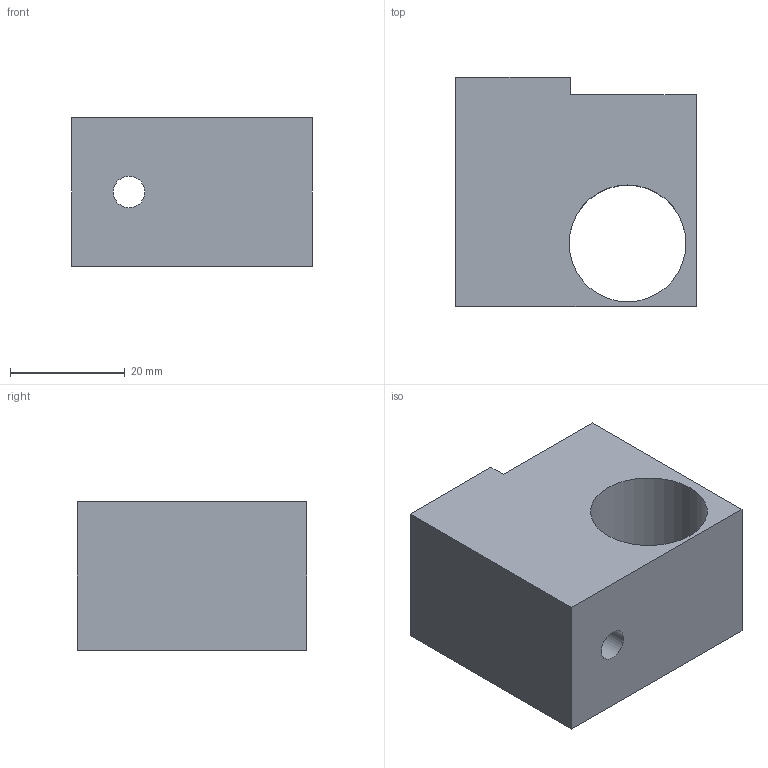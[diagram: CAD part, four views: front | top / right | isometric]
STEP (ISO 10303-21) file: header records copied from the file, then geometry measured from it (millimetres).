
FILE_DESCRIPTION(('Open CASCADE Model'),'2;1');
FILE_NAME('Open CASCADE Shape Model','2026-10-06T19:56:08',('Author'),( 'Open CASCADE'),'Open CASCADE STEP processor 7.9','Open CASCADE 7.9' ,'Unknown');
FILE_SCHEMA(('AUTOMOTIVE_DESIGN { 1 0 10303 214 1 1 1 1 }'));
Length unit declared in the file: millimetre
Products named in the file (1): Open CASCADE STEP translator 7.9 8
Bounding box: 42 x 40 x 26 mm (x, y, z)
Volume: 32515.5 mm3; surface area: 9148.2 mm2
Topology: 1 solids, 1 shells, 10 faces, 24 edges, 16 vertices
Faces by surface type: plane 8, cylinder 2
Full cylindrical faces by diameter (mm): 5.5 x1, 20.4 x1
Entity records: 628 total; most frequent: CARTESIAN_POINT 111, DIRECTION 96, LINE 64, VECTOR 64, ORIENTED_EDGE 48, PCURVE 48, DEFINITIONAL_REPRESENTATION 48, EDGE_CURVE 24
